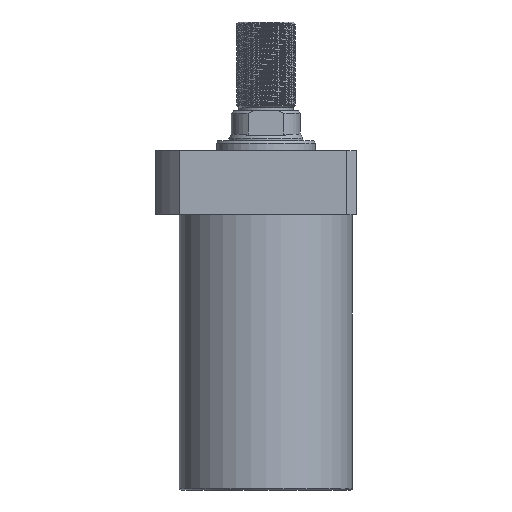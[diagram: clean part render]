
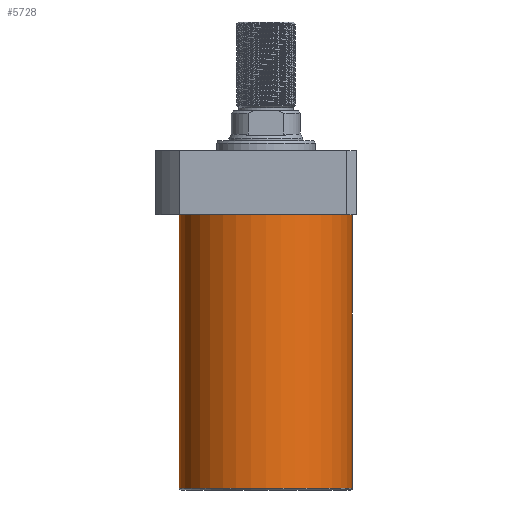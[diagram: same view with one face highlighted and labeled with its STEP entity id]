
A CAD part, front view. The second image highlights one B-rep face of the part: STEP entity #5728.
In plain terms, the highlighted cylindrical face has radius 52.5 mm (diameter 105 mm), a partial arc.
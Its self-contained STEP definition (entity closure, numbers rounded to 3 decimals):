
#67 = DIRECTION ( 'NONE',  ( 0., 0., 1. ) ) ;
#149 = ORIENTED_EDGE ( 'NONE', *, *, #1117, .F. ) ;
#153 = DIRECTION ( 'NONE',  ( 0., 0., 1. ) ) ;
#209 = EDGE_LOOP ( 'NONE', ( #149, #5677, #6351, #1710 ) ) ;
#498 = DIRECTION ( 'NONE',  ( 0., 0., 1. ) ) ;
#561 = CIRCLE ( 'NONE', #7686, 52.5 ) ;
#860 = CYLINDRICAL_SURFACE ( 'NONE', #3232, 52.5 ) ;
#912 = DIRECTION ( 'NONE',  ( 0., 0., -1. ) ) ;
#952 = CARTESIAN_POINT ( 'NONE',  ( -52.5, 0., -185.5 ) ) ;
#1117 = EDGE_CURVE ( 'NONE', #4214, #1804, #5977, .T. ) ;
#1133 = CARTESIAN_POINT ( 'NONE',  ( -52.5, 0., -19.5 ) ) ;
#1262 = VECTOR ( 'NONE', #498, 1000. ) ;
#1623 = DIRECTION ( 'NONE',  ( 0., 0., 1. ) ) ;
#1710 = ORIENTED_EDGE ( 'NONE', *, *, #2833, .T. ) ;
#1804 = VERTEX_POINT ( 'NONE', #1133 ) ;
#2736 = LINE ( 'NONE', #4809, #7461 ) ;
#2833 = EDGE_CURVE ( 'NONE', #2870, #1804, #7070, .T. ) ;
#2870 = VERTEX_POINT ( 'NONE', #3463 ) ;
#3232 = AXIS2_PLACEMENT_3D ( 'NONE', #7817, #153, #4621 ) ;
#3418 = CARTESIAN_POINT ( 'NONE',  ( 52.5, 0., -185.5 ) ) ;
#3463 = CARTESIAN_POINT ( 'NONE',  ( 52.5, 0., -19.5 ) ) ;
#3900 = CARTESIAN_POINT ( 'NONE',  ( 0., 0., -185.5 ) ) ;
#4214 = VERTEX_POINT ( 'NONE', #952 ) ;
#4267 = FACE_OUTER_BOUND ( 'NONE', #209, .T. ) ;
#4324 = CARTESIAN_POINT ( 'NONE',  ( -52.5, 0., -186.5 ) ) ;
#4542 = DIRECTION ( 'NONE',  ( -1., 0., 0. ) ) ;
#4621 = DIRECTION ( 'NONE',  ( 1., 0., 0. ) ) ;
#4753 = CARTESIAN_POINT ( 'NONE',  ( 0., 0., -19.5 ) ) ;
#4809 = CARTESIAN_POINT ( 'NONE',  ( 52.5, 0., -186.5 ) ) ;
#5122 = VERTEX_POINT ( 'NONE', #3418 ) ;
#5409 = DIRECTION ( 'NONE',  ( 1., 0., 0. ) ) ;
#5576 = EDGE_CURVE ( 'NONE', #4214, #5122, #561, .T. ) ;
#5677 = ORIENTED_EDGE ( 'NONE', *, *, #5576, .T. ) ;
#5728 = ADVANCED_FACE ( 'NONE', ( #4267 ), #860, .T. ) ;
#5977 = LINE ( 'NONE', #4324, #1262 ) ;
#6351 = ORIENTED_EDGE ( 'NONE', *, *, #7595, .T. ) ;
#7070 = CIRCLE ( 'NONE', #7965, 52.5 ) ;
#7461 = VECTOR ( 'NONE', #1623, 1000. ) ;
#7595 = EDGE_CURVE ( 'NONE', #5122, #2870, #2736, .T. ) ;
#7686 = AXIS2_PLACEMENT_3D ( 'NONE', #3900, #67, #4542 ) ;
#7817 = CARTESIAN_POINT ( 'NONE',  ( 0., 0., -186.5 ) ) ;
#7965 = AXIS2_PLACEMENT_3D ( 'NONE', #4753, #912, #5409 ) ;
